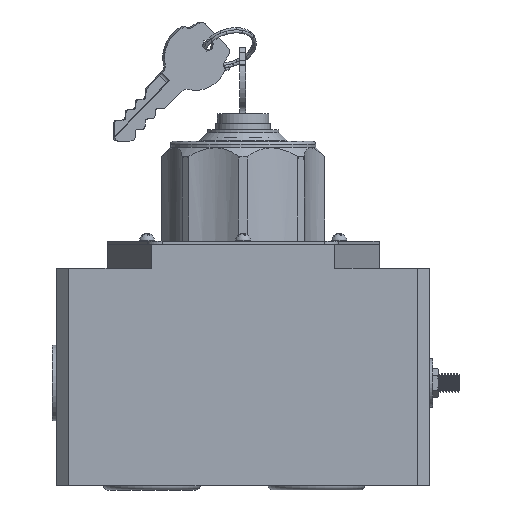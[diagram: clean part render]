
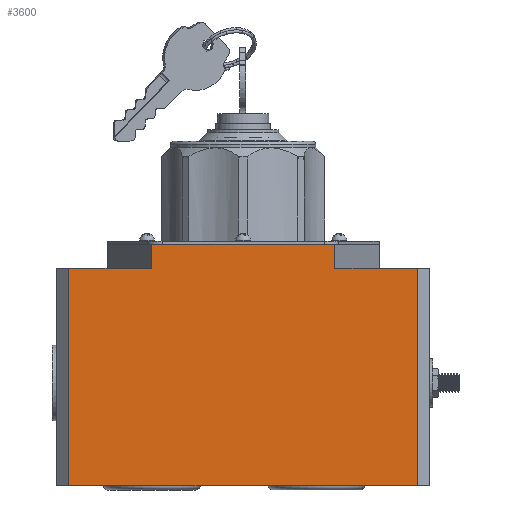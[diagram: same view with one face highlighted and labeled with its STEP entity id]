
A CAD part, front view. The second image highlights one B-rep face of the part: STEP entity #3600.
In plain terms, the highlighted planar face has unit normal (0, -1, 0).
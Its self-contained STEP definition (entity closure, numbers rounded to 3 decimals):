
#3600=ADVANCED_FACE('',(#4967),#4605,.T.);
#4605=PLANE('',#18973);
#4967=FACE_OUTER_BOUND('',#5907,.T.);
#5907=EDGE_LOOP('',(#7417,#7418,#7419,#7420,#7421,#7422,#7423,#7424));
#7417=ORIENTED_EDGE('',*,*,#14274,.T.);
#7418=ORIENTED_EDGE('',*,*,#14206,.F.);
#7419=ORIENTED_EDGE('',*,*,#14273,.F.);
#7420=ORIENTED_EDGE('',*,*,#14260,.T.);
#7421=ORIENTED_EDGE('',*,*,#14275,.F.);
#7422=ORIENTED_EDGE('',*,*,#14276,.F.);
#7423=ORIENTED_EDGE('',*,*,#14277,.T.);
#7424=ORIENTED_EDGE('',*,*,#14271,.T.);
#12368=VERTEX_POINT('',#27398);
#12369=VERTEX_POINT('',#27399);
#12416=VERTEX_POINT('',#27613);
#12417=VERTEX_POINT('',#27615);
#12424=VERTEX_POINT('',#27633);
#12425=VERTEX_POINT('',#27635);
#12426=VERTEX_POINT('',#27642);
#12427=VERTEX_POINT('',#27644);
#14206=EDGE_CURVE('',#12368,#12369,#16747,.T.);
#14260=EDGE_CURVE('',#12417,#12416,#16773,.T.);
#14271=EDGE_CURVE('',#12425,#12424,#16782,.T.);
#14273=EDGE_CURVE('',#12417,#12368,#16784,.T.);
#14274=EDGE_CURVE('',#12424,#12369,#16785,.T.);
#14275=EDGE_CURVE('',#12426,#12416,#16786,.T.);
#14276=EDGE_CURVE('',#12427,#12426,#16787,.T.);
#14277=EDGE_CURVE('',#12427,#12425,#16788,.T.);
#16747=LINE('',#27397,#17782);
#16773=LINE('',#27614,#17808);
#16782=LINE('',#27634,#17817);
#16784=LINE('',#27638,#17819);
#16785=LINE('',#27640,#17820);
#16786=LINE('',#27641,#17821);
#16787=LINE('',#27643,#17822);
#16788=LINE('',#27645,#17823);
#17782=VECTOR('',#20972,1.);
#17808=VECTOR('',#21056,1.);
#17817=VECTOR('',#21071,1.);
#17819=VECTOR('',#21075,1.);
#17820=VECTOR('',#21078,1.);
#17821=VECTOR('',#21079,1.);
#17822=VECTOR('',#21080,1.);
#17823=VECTOR('',#21081,1.);
#18973=AXIS2_PLACEMENT_3D('',#27646,#21082,#21083);
#20972=DIRECTION('',(-1.,0.,0.));
#21056=DIRECTION('',(-1.,0.,0.));
#21071=DIRECTION('',(-1.,0.,0.));
#21075=DIRECTION('',(0.,0.,-1.));
#21078=DIRECTION('',(0.,0.,-1.));
#21079=DIRECTION('',(0.,0.,-1.));
#21080=DIRECTION('',(1.,0.,0.));
#21081=DIRECTION('',(0.,0.,-1.));
#21082=DIRECTION('',(0.,-1.,0.));
#21083=DIRECTION('',(-1.,0.,0.));
#27397=CARTESIAN_POINT('',(92.073,39.586,-73.1));
#27398=CARTESIAN_POINT('',(92.073,39.586,-73.1));
#27399=CARTESIAN_POINT('',(-23.429,39.586,-73.1));
#27613=CARTESIAN_POINT('',(64.672,39.586,-1.1));
#27614=CARTESIAN_POINT('',(92.073,39.586,-1.1));
#27615=CARTESIAN_POINT('',(92.073,39.586,-1.1));
#27633=CARTESIAN_POINT('',(-23.429,39.586,-1.1));
#27634=CARTESIAN_POINT('',(92.073,39.586,-1.1));
#27635=CARTESIAN_POINT('',(3.972,39.586,-1.1));
#27638=CARTESIAN_POINT('',(92.073,39.586,-1.1));
#27640=CARTESIAN_POINT('',(-23.429,39.586,-1.1));
#27641=CARTESIAN_POINT('',(64.672,39.586,6.9));
#27642=CARTESIAN_POINT('',(64.672,39.586,6.9));
#27643=CARTESIAN_POINT('',(3.972,39.586,6.9));
#27644=CARTESIAN_POINT('',(3.972,39.586,6.9));
#27645=CARTESIAN_POINT('',(3.972,39.586,6.9));
#27646=CARTESIAN_POINT('',(92.073,39.586,-1.1));
